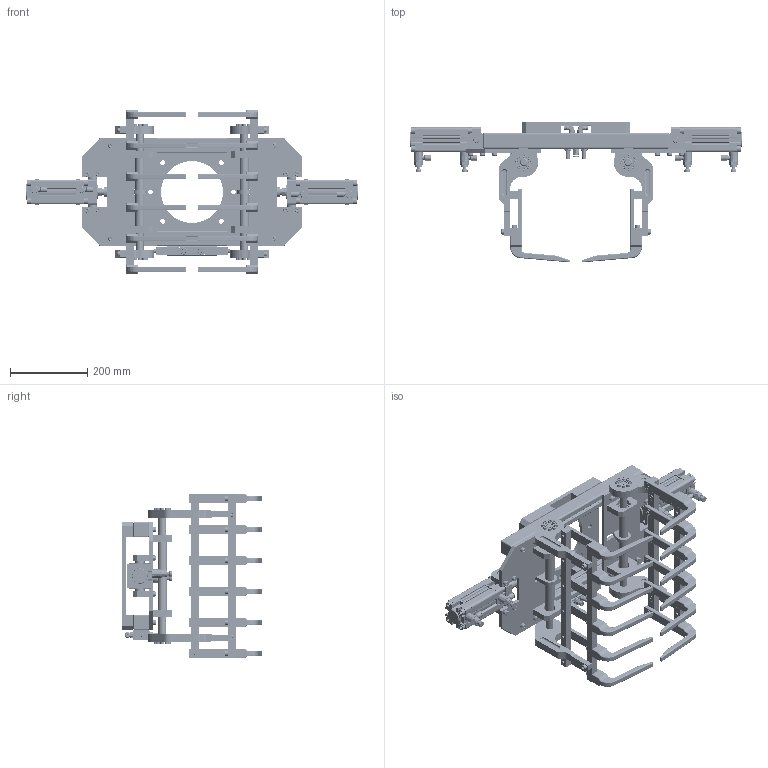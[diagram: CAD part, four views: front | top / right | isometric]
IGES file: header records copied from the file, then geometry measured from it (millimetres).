
Start section: SolidWorks IGES file using analytic representation for surfaces
Global section: file name: F:\VUT\Diplomka\IGES1\Hlavice uchopovací.IGS; native system: SolidWorks 2013; preprocessor: SolidWorks 2013; author: faltal; date: 140528.132102; units: millimetre
Bounding box: 857.67 x 363.39 x 425 mm (x, y, z)
Surface area: 2041075.3 mm2 (no closed solid volume)
Topology: 0 solids, 0 shells, 6700 faces, 74296 edges, 73892 vertices
Faces by surface type: bspline 3589, revolution 3111
